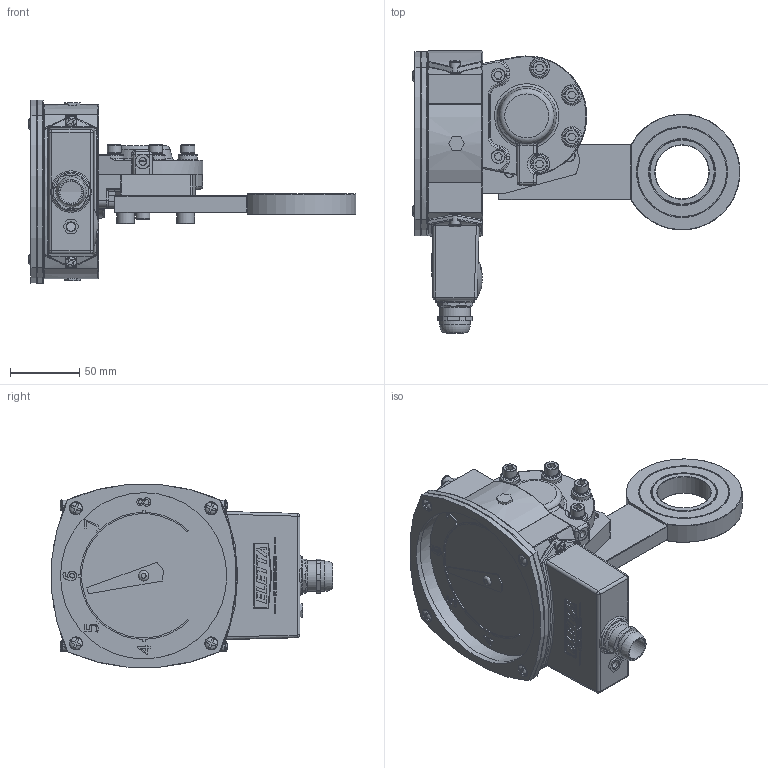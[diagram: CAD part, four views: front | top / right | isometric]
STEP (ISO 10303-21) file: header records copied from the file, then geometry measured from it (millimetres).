
FILE_DESCRIPTION(/* description */ ('Alibre Inc.'),/* implementation_level */ '2;1');
FILE_NAME(/* name */ 'export0',/* time_stamp */ '2012-10-19T10:54:37+02:00',/* author */ (''),/* organization */ (''),/* preprocessor_version */ 'ST-DEVELOPER v14',/* originating_system */ 'Alibre',/* authorisation */ '');
FILE_SCHEMA (('CONFIG_CONTROL_DESIGN'));
Length unit declared in the file: centimetre
Products named in the file (19): ID_1; ID_2; ID_3; ID_4; ID_5; ID_6; ID_7; ID_8; ID_9; ID_10; ID_11; ID_12; ID_13; ID_14
Bounding box: 237.36 x 204.33 x 132.88 mm (x, y, z)
Volume: 531268.4 mm3; surface area: 232574 mm2
Topology: 31 solids, 31 shells, 1723 faces, 4150 edges, 2558 vertices
Faces by surface type: plane 766, bspline 365, cylinder 322, torus 158, cone 86, sphere 26
Full cylindrical faces by diameter (mm): 3.9 x2, 5 x18, 5.2 x2, 5.5 x5, 5.541 x2, 6 x28, 6.35 x2, 6.5 x7, 8 x7, 8.5 x2, 9.6 x6, 10 x11, 10.5 x1, 12 x3, 13 x2, 14 x3, 16 x1, 19.5 x1, 22 x2, 22.5 x4, 25 x1, 29 x1, 31 x1, 39 x1, 47 x2, 48 x2, 65 x2, 66 x2, 120.5 x3, 123.4 x1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
Entity records: 60556 total; most frequent: CARTESIAN_POINT 28551, ORIENTED_EDGE 6474, DIRECTION 4845, EDGE_CURVE 3237, VERTEX_POINT 2118, AXIS2_PLACEMENT_3D 2016, EDGE_LOOP 1787, FACE_BOUND 1787
